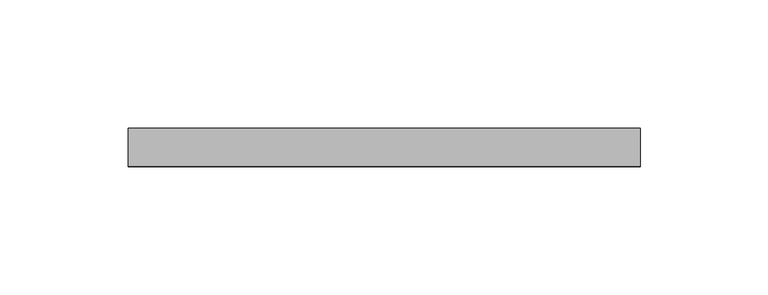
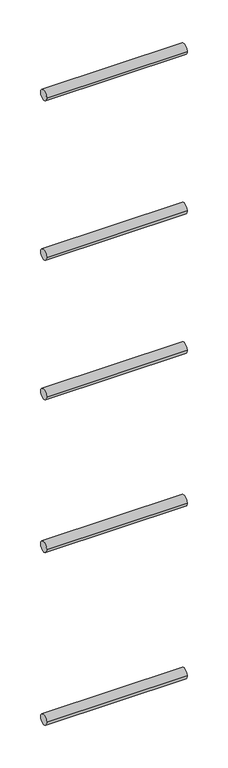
"""IFC4 building model written with IfcOpenShell, lengths in millimetres: railing geometry, ARQ-BA-IN-HiGal-Varillas."""

import ifcopenshell
import ifcopenshell.guid

model = None  # the IFC model being written
_history = None  # IfcOwnerHistory: only IFC2X3 demands one
_inside = {}  # id of a spatial element -> (the spatial element, [elements in it])
_under = {}  # id of a project, library or spatial element -> (it, [spatial elements below it])
_declared = {}  # id of a project -> (the project, [libraries it declares])
_typed = {}  # id of a type object -> (the type object, [elements of that type])
_made_of = {}  # id of a material, layer set ... -> (it, [elements and type objects made of it])


def new_model(schema):
    """Start an empty IFC model of exactly this schema.

    Asked for "IFC4X3", IfcOpenShell would pick the latest addendum, in which some entities
    have other attributes; the version numbers below select the first issue.
    IFC2X3 requires an IfcOwnerHistory on every rooted entity: one is made here for all.
    """
    global model, _history
    if schema == "IFC4X3":
        model = ifcopenshell.file(schema_version=(4, 3, 0, 0))
    else:
        model = ifcopenshell.file(schema=schema)
    _inside.clear()
    _under.clear()
    _declared.clear()
    _typed.clear()
    _made_of.clear()
    _history = None
    if model.schema == "IFC2X3":
        org = make("IfcOrganization", Name="unknown")
        user = make(
            "IfcPersonAndOrganization",
            ThePerson=make("IfcPerson", FamilyName="unknown"),
            TheOrganization=org,
        )
        app = make(
            "IfcApplication",
            ApplicationDeveloper=org,
            Version="unknown",
            ApplicationFullName="unknown",
            ApplicationIdentifier="unknown",
        )
        _history = make(
            "IfcOwnerHistory",
            OwningUser=user,
            OwningApplication=app,
            ChangeAction="ADDED",
            CreationDate=0,
        )
    return model


def make(cls, **values):
    """One entity of the class cls with the attributes given. An attribute that is None is left unset."""
    return model.create_entity(
        cls, **{name: value for name, value in values.items() if value is not None}
    )


def rooted(cls, **values):
    """An entity with a GlobalId (a new one), such as an element, a storey or a relation."""
    return make(cls, GlobalId=ifcopenshell.guid.new(), OwnerHistory=_history, **values)


def si_unit(unit_type, name, prefix=None):
    """IfcSIUnit, for example si_unit("LENGTHUNIT", "METRE", prefix="MILLI")."""
    return make("IfcSIUnit", UnitType=unit_type, Prefix=prefix, Name=name)


def assignment(units):
    """IfcUnitAssignment: the units of a project."""
    return None if units is None else make("IfcUnitAssignment", Units=units)


def point(xyz):
    """IfcCartesianPoint."""
    return None if xyz is None else make("IfcCartesianPoint", Coordinates=xyz)


def direction(xyz):
    """IfcDirection."""
    return None if xyz is None else make("IfcDirection", DirectionRatios=xyz)


def frame(location, z_axis=None, x_axis=None):
    """IfcAxis2Placement3D, a coordinate frame: its origin and axes. An axis left out is left unset."""
    return make(
        "IfcAxis2Placement3D",
        Location=point(location),
        Axis=direction(z_axis),
        RefDirection=direction(x_axis),
    )


def frame_2d(location, x_axis=None):
    """IfcAxis2Placement2D, a coordinate frame in the plane: its origin and x axis."""
    return make(
        "IfcAxis2Placement2D", Location=point(location), RefDirection=direction(x_axis)
    )


def origin():
    """The frame at (0, 0, 0) with its axes left unset."""
    return frame((0.0, 0.0, 0.0))


def place(relative_to, where):
    """IfcLocalPlacement: puts the frame where relative to a parent placement (None: the world)."""
    return make(
        "IfcLocalPlacement", PlacementRelTo=relative_to, RelativePlacement=where
    )


def context(
    kind, dimensions, precision=None, world=None, true_north=None, identifier=None
):
    """IfcGeometricRepresentationContext, for example the 3D "Model" context."""
    return make(
        "IfcGeometricRepresentationContext",
        ContextIdentifier=identifier,
        ContextType=kind,
        CoordinateSpaceDimension=dimensions,
        Precision=precision,
        WorldCoordinateSystem=world,
        TrueNorth=true_north,
    )


def project(units=None, contexts=None):
    """IfcProject with its units and contexts."""
    return rooted(
        "IfcProject",
        Name="project",
        RepresentationContexts=contexts,
        UnitsInContext=assignment(units),
    )


def spatial(cls, under=None, at=None, **own):
    """A site, building, storey or space (cls), placed at a placement, below another one or the project."""
    s = rooted(cls, ObjectPlacement=at, **own)
    if under is not None:
        _under.setdefault(under.id(), (under, []))[1].append(s)
    return s


def circle_curve(where, radius):
    """IfcCircle in the frame where."""
    return make("IfcCircle", Position=where, Radius=radius)


def trimmed(basis, trim1, trim2, sense, master):
    """IfcTrimmedCurve: the piece of a basis curve between two trims."""
    return make(
        "IfcTrimmedCurve",
        BasisCurve=basis,
        Trim1=trim1,
        Trim2=trim2,
        SenseAgreement=sense,
        MasterRepresentation=master,
    )


def segment(curve, same_sense, transition):
    """IfcCompositeCurveSegment."""
    return make(
        "IfcCompositeCurveSegment",
        Transition=transition,
        SameSense=same_sense,
        ParentCurve=curve,
    )


def composite_curve(segments, self_intersect=None):
    """IfcCompositeCurve: segments joined end to end."""
    return make("IfcCompositeCurve", Segments=segments, SelfIntersect=self_intersect)


def outline(outer, holes=None, kind="AREA"):
    """IfcArbitraryClosedProfileDef: a profile drawn as a closed curve; with holes, ...WithVoids."""
    if holes is None:
        return make("IfcArbitraryClosedProfileDef", ProfileType=kind, OuterCurve=outer)
    return make(
        "IfcArbitraryProfileDefWithVoids",
        ProfileType=kind,
        OuterCurve=outer,
        InnerCurves=holes,
    )


def extrude(swept, where, along, depth):
    """IfcExtrudedAreaSolid: the profile swept, set in the frame where, extruded along a direction by depth."""
    return make(
        "IfcExtrudedAreaSolid",
        SweptArea=swept,
        Position=where,
        ExtrudedDirection=direction(along),
        Depth=depth,
    )


def shape(context_of_items, identifier, shape_type, items):
    """IfcShapeRepresentation: the items that make up one representation, for example the "Body"."""
    return make(
        "IfcShapeRepresentation",
        ContextOfItems=context_of_items,
        RepresentationIdentifier=identifier,
        RepresentationType=shape_type,
        Items=items,
    )


def source(mapping_origin, context_of_items, identifier, shape_type, items):
    """IfcRepresentationMap: a shape defined once, which mapped items show again and again."""
    return make(
        "IfcRepresentationMap",
        MappingOrigin=mapping_origin,
        MappedRepresentation=shape(context_of_items, identifier, shape_type, items),
    )


def transform(
    local_origin,
    x_axis=None,
    y_axis=None,
    z_axis=None,
    scale=None,
    scale2=None,
    scale3=None,
    uniform=True,
):
    """IfcCartesianTransformationOperator3D, or its non-uniform kind. x_axis, y_axis, z_axis: its Axis1, 2, 3."""
    if uniform:
        return make(
            "IfcCartesianTransformationOperator3D",
            Axis1=direction(x_axis),
            Axis2=direction(y_axis),
            LocalOrigin=point(local_origin),
            Scale=scale,
            Axis3=direction(z_axis),
        )
    return make(
        "IfcCartesianTransformationOperator3DnonUniform",
        Axis1=direction(x_axis),
        Axis2=direction(y_axis),
        LocalOrigin=point(local_origin),
        Scale=scale,
        Axis3=direction(z_axis),
        Scale2=scale2,
        Scale3=scale3,
    )


def mapped(mapping_source, mapping_target):
    """IfcMappedItem: shows the shape of a source again, moved by a transform."""
    return make(
        "IfcMappedItem", MappingSource=mapping_source, MappingTarget=mapping_target
    )


def made_of(thing, what):
    """Note that an element or type object is made of a material, layer set ...; save() writes the relation."""
    if what is not None:
        _made_of.setdefault(what.id(), (what, []))[1].append(thing)
    return thing


def element(
    cls,
    number,
    at=None,
    inside=None,
    cuts=None,
    type_object=None,
    material=None,
    context=None,
    identifier="Body",
    shape_type=None,
    held_by="IfcProductDefinitionShape",
    body=None,
    shapes=None,
    **own,
):
    """One element of the class cls, such as IfcWall. Its Tag is "e" and its number.

    at: its placement. inside: the storey or other place that contains it. cuts: it is an
    opening in that element (IfcRelVoidsElement). A single representation is given by context,
    identifier, shape_type and body (its items); several are given by shapes. held_by: the class
    of the entity that holds the representations. save() writes the other relations.
    """
    e = rooted(cls, Tag="e%d" % number, ObjectPlacement=at, **own)
    if body is not None:
        shapes = [shape(context, identifier, shape_type, body)]
    if shapes is not None:
        e.Representation = make(held_by, Representations=shapes)
    if inside is not None:
        _inside.setdefault(inside.id(), (inside, []))[1].append(e)
    if cuts is not None:
        rooted(
            "IfcRelVoidsElement", RelatingBuildingElement=cuts, RelatedOpeningElement=e
        )
    if type_object is not None:
        _typed.setdefault(type_object.id(), (type_object, []))[1].append(e)
    return made_of(e, material)


def aggregate(whole, parts):
    """IfcRelAggregates: a whole, such as a stair, and the parts it consists of."""
    return rooted("IfcRelAggregates", RelatingObject=whole, RelatedObjects=parts)


def save(model, path):
    """Write the relations noted so far, then the file.

    IfcRelAggregates (storeys below a building ...), IfcRelContainedInSpatialStructure (elements
    in a storey), IfcRelDefinesByType, IfcRelAssociatesMaterial and IfcRelDeclares: one each for
    every whole, place, type object, material and project.
    """
    for whole, parts in _under.values():
        aggregate(whole, parts)
    for where, things in _inside.values():
        rooted(
            "IfcRelContainedInSpatialStructure",
            RelatedElements=things,
            RelatingStructure=where,
        )
    for kind, things in _typed.values():
        rooted("IfcRelDefinesByType", RelatedObjects=things, RelatingType=kind)
    for what, things in _made_of.values():
        rooted("IfcRelAssociatesMaterial", RelatedObjects=things, RelatingMaterial=what)
    for by, libraries in _declared.values():
        rooted("IfcRelDeclares", RelatingContext=by, RelatedDefinitions=libraries)
    model.write(path)


def railing_fbd68230(model_context):
    return source(origin(), model_context, "Body", "SweptSolid", [
        extrude(outline(composite_curve([segment(trimmed(circle_curve(frame_2d((6434.6072273, 6112.5)), 7.5), [point((6442.1072273, 6112.5))], [point((6427.1072273, 6112.5))], False, "CARTESIAN"), True, "CONTINUOUS"), segment(trimmed(circle_curve(frame_2d((6434.6072273, 6112.5)), 7.5), [point((6427.1072273, 6112.5))], [point((6442.1072273, 6112.5))], False, "CARTESIAN"), True, "CONTINUOUS")], self_intersect=False)), frame((14765.8126262, 0.0, 0.0), z_axis=(1.0, 0.0, 0.0), x_axis=(0.0, 1.0, 0.0)), (0.0, 0.0, 1.0), 200.0),
        extrude(outline(composite_curve([segment(trimmed(circle_curve(frame_2d((6434.6072273, 5872.5)), 7.5), [point((6442.1072273, 5872.5))], [point((6427.1072273, 5872.5))], False, "CARTESIAN"), True, "CONTINUOUS"), segment(trimmed(circle_curve(frame_2d((6434.6072273, 5872.5)), 7.5), [point((6427.1072273, 5872.5))], [point((6442.1072273, 5872.5))], False, "CARTESIAN"), True, "CONTINUOUS")], self_intersect=False)), frame((14765.8126262, 0.0, 0.0), z_axis=(1.0, 0.0, 0.0), x_axis=(0.0, 1.0, 0.0)), (0.0, 0.0, 1.0), 200.0),
        extrude(outline(composite_curve([segment(trimmed(circle_curve(frame_2d((6434.6072273, 5662.5)), 7.5), [point((6442.1072273, 5662.5))], [point((6427.1072273, 5662.5))], False, "CARTESIAN"), True, "CONTINUOUS"), segment(trimmed(circle_curve(frame_2d((6434.6072273, 5662.5)), 7.5), [point((6427.1072273, 5662.5))], [point((6442.1072273, 5662.5))], False, "CARTESIAN"), True, "CONTINUOUS")], self_intersect=False)), frame((14765.8126262, 0.0, 0.0), z_axis=(1.0, 0.0, 0.0), x_axis=(0.0, 1.0, 0.0)), (0.0, 0.0, 1.0), 200.0),
        extrude(outline(composite_curve([segment(trimmed(circle_curve(frame_2d((6434.6072273, 5432.5)), 7.5), [point((6442.1072273, 5432.5))], [point((6427.1072273, 5432.5))], False, "CARTESIAN"), True, "CONTINUOUS"), segment(trimmed(circle_curve(frame_2d((6434.6072273, 5432.5)), 7.5), [point((6427.1072273, 5432.5))], [point((6442.1072273, 5432.5))], False, "CARTESIAN"), True, "CONTINUOUS")], self_intersect=False)), frame((14765.8126262, 0.0, 0.0), z_axis=(1.0, 0.0, 0.0), x_axis=(0.0, 1.0, 0.0)), (0.0, 0.0, 1.0), 200.0),
        extrude(outline(composite_curve([segment(trimmed(circle_curve(frame_2d((6434.6072273, 5172.5)), 7.5), [point((6442.1072273, 5172.5))], [point((6427.1072273, 5172.5))], False, "CARTESIAN"), True, "CONTINUOUS"), segment(trimmed(circle_curve(frame_2d((6434.6072273, 5172.5)), 7.5), [point((6427.1072273, 5172.5))], [point((6442.1072273, 5172.5))], False, "CARTESIAN"), True, "CONTINUOUS")], self_intersect=False)), frame((14765.8126262, 0.0, 0.0), z_axis=(1.0, 0.0, 0.0), x_axis=(0.0, 1.0, 0.0)), (0.0, 0.0, 1.0), 200.0),
    ])


if __name__ == "__main__":
    model = new_model("IFC4")
    model_context = context("Model", 3, world=origin())
    ifc_project = project(units=[si_unit("LENGTHUNIT", "METRE", prefix="MILLI")], contexts=[model_context])
    site = spatial("IfcSite", under=ifc_project)
    building = spatial("IfcBuilding", under=site)
    placement = place(None, origin())
    railing_shape = railing_fbd68230(model_context)
    element("IfcRailing", 1, ObjectType="ARQ-BA-IN-HiGal-Varillas", at=placement, inside=building, context=model_context, shape_type="MappedRepresentation", body=[
        mapped(railing_shape, transform((0.0, 0.0, 0.0), x_axis=(1.0, 0.0, 0.0), y_axis=(0.0, 1.0, 0.0), z_axis=(0.0, 0.0, 1.0))),
    ])
    save(model, "model.ifc")
